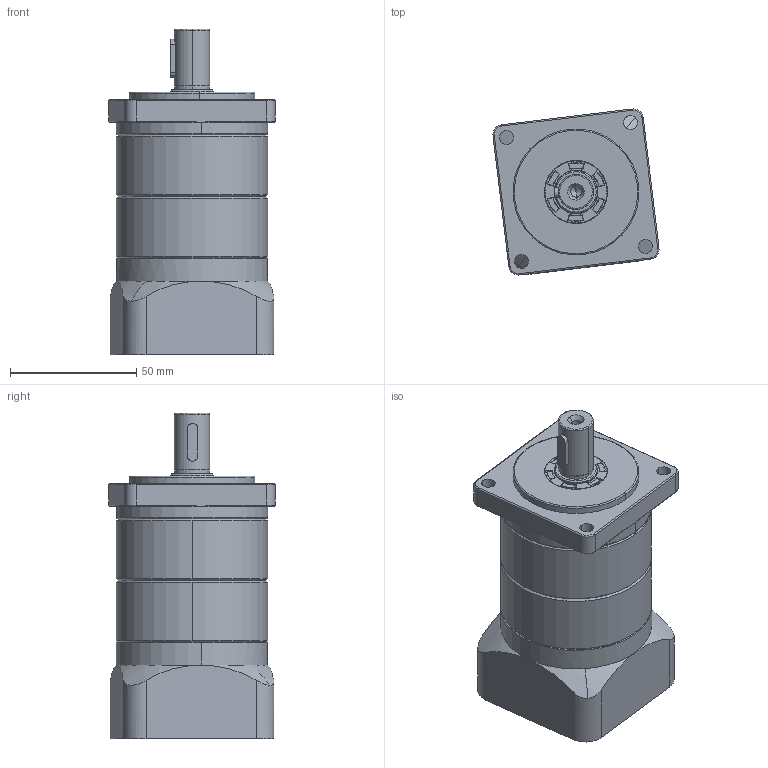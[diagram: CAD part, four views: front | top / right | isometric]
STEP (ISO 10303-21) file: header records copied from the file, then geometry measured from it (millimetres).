
FILE_DESCRIPTION (( 'STEP AP214' ), '1' );
FILE_NAME ('S60-L2.STEP', '2017-06-15T03:39:58', ( '' ), ( '' ), 'SwSTEP 2.0', 'SolidWorks 2015', '' );
FILE_SCHEMA (( 'AUTOMOTIVE_DESIGN' ));
Length unit declared in the file: millimetre
Products named in the file (8): S60-L2; S-60型_入力軸; 4X4X15潬; S-60型_內齒環; S-60倰_源倰菁釱-侜督SE; 蚐猾_TC 17-25-4; S-60倰_堤薯嵞; S-60倰_源倛奻屳
Assembly tree (8 placements, depth 2):
  S60-L2
    S-60型_內齒環  x2
    S-60倰_源倰菁釱-侜督SE
    S-60倰_源倛奻屳
    S-60倰_堤薯嵞
    4X4X15潬
    S-60型_入力軸
    蚐猾_TC 17-25-4
Bounding box: 65.88 x 65.88 x 129.1 mm (x, y, z)
Volume: 190125.4 mm3; surface area: 70422 mm2
Topology: 8 solids, 8 shells, 408 faces, 957 edges, 587 vertices
Faces by surface type: cylinder 194, plane 92, cone 72, bspline 24, torus 20, sphere 6
Entity records: 12183 total; most frequent: CARTESIAN_POINT 3106, DIRECTION 1965, ORIENTED_EDGE 1730, EDGE_CURVE 865, AXIS2_PLACEMENT_3D 818, VERTEX_POINT 543, EDGE_LOOP 456, CIRCLE 455
